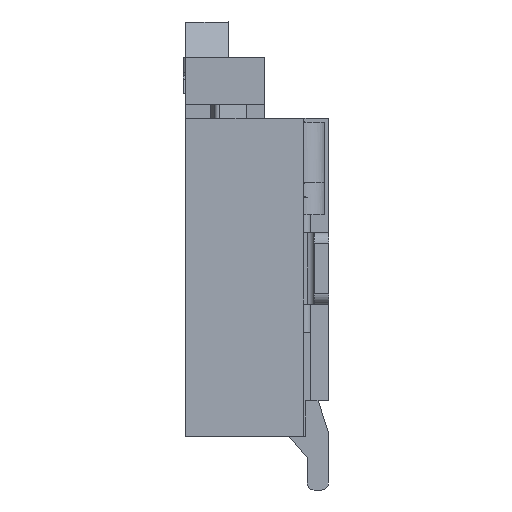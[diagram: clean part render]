
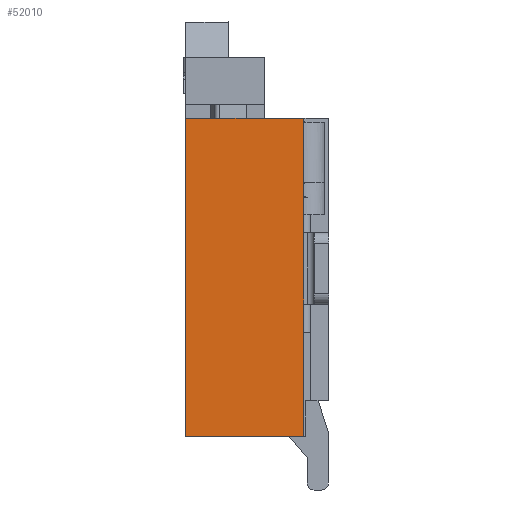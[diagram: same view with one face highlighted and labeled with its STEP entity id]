
A CAD part, left-side view. The second image highlights one B-rep face of the part: STEP entity #52010.
In plain terms, the highlighted planar face has unit normal (-1, 0, 0).
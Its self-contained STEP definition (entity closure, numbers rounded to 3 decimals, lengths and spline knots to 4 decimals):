
#10882=DIRECTION('',(0.,0.,-1.));
#10883=VECTOR('',#10882,4.45);
#10884=CARTESIAN_POINT('',(0.,0.35,-1.35));
#10885=LINE('',#10884,#10883);
#10886=DIRECTION('',(0.,1.,0.));
#10887=VECTOR('',#10886,1.65);
#10888=CARTESIAN_POINT('',(0.,0.35,-5.8));
#10889=LINE('',#10888,#10887);
#10890=DIRECTION('',(0.,0.,1.));
#10891=VECTOR('',#10890,4.45);
#10892=CARTESIAN_POINT('',(0.,2.,-5.8));
#10893=LINE('',#10892,#10891);
#10894=DIRECTION('',(0.,-1.,0.));
#10895=VECTOR('',#10894,1.65);
#10896=CARTESIAN_POINT('',(0.,2.,-1.35));
#10897=LINE('',#10896,#10895);
#27556=CARTESIAN_POINT('',(0.,0.35,-5.8));
#27557=CARTESIAN_POINT('',(0.,2.,-5.8));
#27558=VERTEX_POINT('',#27556);
#27559=VERTEX_POINT('',#27557);
#27721=CARTESIAN_POINT('',(0.,2.,-1.35));
#27722=VERTEX_POINT('',#27721);
#29149=CARTESIAN_POINT('',(0.,0.35,-1.35));
#29150=VERTEX_POINT('',#29149);
#51998=CARTESIAN_POINT('',(0.,1.175,-3.575));
#51999=DIRECTION('',(1.,0.,0.));
#52000=DIRECTION('',(0.,0.,-1.));
#52001=AXIS2_PLACEMENT_3D('',#51998,#51999,#52000);
#52002=PLANE('',#52001);
#52003=ORIENTED_EDGE('',*,*,#51988,.T.);
#52004=ORIENTED_EDGE('',*,*,#45179,.T.);
#52005=ORIENTED_EDGE('',*,*,#44984,.T.);
#52007=ORIENTED_EDGE('',*,*,#52006,.T.);
#52008=EDGE_LOOP('',(#52003,#52004,#52005,#52007));
#52009=FACE_OUTER_BOUND('',#52008,.F.);
#44984=EDGE_CURVE('',#27559,#27722,#10893,.T.);
#45179=EDGE_CURVE('',#27558,#27559,#10889,.T.);
#51988=EDGE_CURVE('',#29150,#27558,#10885,.T.);
#52006=EDGE_CURVE('',#27722,#29150,#10897,.T.);
#52010=ADVANCED_FACE('',(#52009),#52002,.F.);
